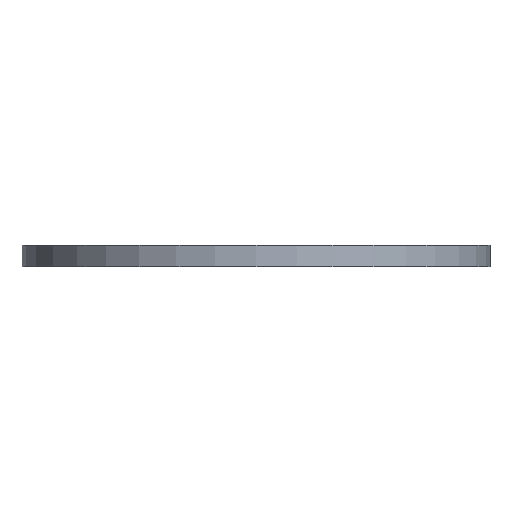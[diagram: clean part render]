
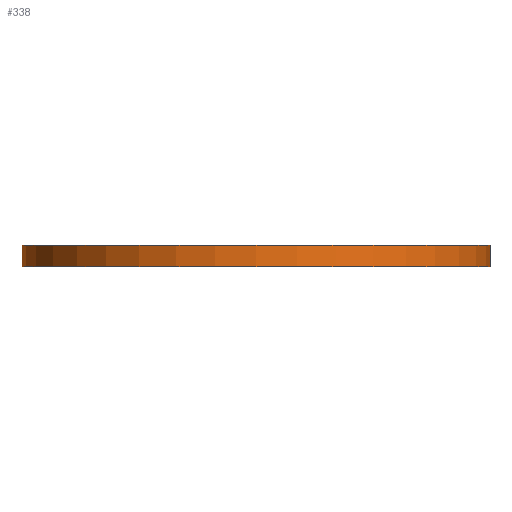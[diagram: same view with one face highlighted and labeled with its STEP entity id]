
A CAD part, front view. The second image highlights one B-rep face of the part: STEP entity #338.
In plain terms, the highlighted cylindrical face has radius 202.5 mm (diameter 405 mm), a partial arc.
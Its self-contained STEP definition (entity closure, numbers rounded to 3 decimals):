
#6 = CYLINDRICAL_SURFACE ( 'NONE', #767, 202.5 ) ;
#24 = LINE ( 'NONE', #643, #287 ) ;
#34 = EDGE_CURVE ( 'NONE', #469, #373, #250, .T. ) ;
#46 = CARTESIAN_POINT ( 'NONE',  ( 0., 0., 0. ) ) ;
#54 = EDGE_CURVE ( 'NONE', #164, #373, #780, .T. ) ;
#68 = CARTESIAN_POINT ( 'NONE',  ( 202.5, 0., 19. ) ) ;
#93 = EDGE_CURVE ( 'NONE', #153, #164, #24, .T. ) ;
#110 = CARTESIAN_POINT ( 'NONE',  ( -202.5, 0., 19. ) ) ;
#116 = DIRECTION ( 'NONE',  ( 0., 0., -1. ) ) ;
#117 = AXIS2_PLACEMENT_3D ( 'NONE', #769, #655, #786 ) ;
#153 = VERTEX_POINT ( 'NONE', #110 ) ;
#164 = VERTEX_POINT ( 'NONE', #582 ) ;
#192 = CARTESIAN_POINT ( 'NONE',  ( 202.5, 0., 0. ) ) ;
#217 = DIRECTION ( 'NONE',  ( 0., 0., -1. ) ) ;
#236 = AXIS2_PLACEMENT_3D ( 'NONE', #46, #586, #380 ) ;
#240 = CIRCLE ( 'NONE', #117, 202.5 ) ;
#243 = VECTOR ( 'NONE', #217, 1000. ) ;
#250 = LINE ( 'NONE', #268, #243 ) ;
#253 = ORIENTED_EDGE ( 'NONE', *, *, #93, .T. ) ;
#268 = CARTESIAN_POINT ( 'NONE',  ( 202.5, 0., 19. ) ) ;
#287 = VECTOR ( 'NONE', #116, 1000. ) ;
#290 = CARTESIAN_POINT ( 'NONE',  ( 0., 0., 19. ) ) ;
#338 = ADVANCED_FACE ( 'NONE', ( #776 ), #6, .T. ) ;
#373 = VERTEX_POINT ( 'NONE', #192 ) ;
#380 = DIRECTION ( 'NONE',  ( 1., 0., 0. ) ) ;
#385 = ORIENTED_EDGE ( 'NONE', *, *, #34, .F. ) ;
#397 = DIRECTION ( 'NONE',  ( -1., 0., 0. ) ) ;
#468 = EDGE_LOOP ( 'NONE', ( #385, #708, #253, #729 ) ) ;
#469 = VERTEX_POINT ( 'NONE', #68 ) ;
#528 = EDGE_CURVE ( 'NONE', #153, #469, #240, .T. ) ;
#531 = DIRECTION ( 'NONE',  ( 0., 0., -1. ) ) ;
#582 = CARTESIAN_POINT ( 'NONE',  ( -202.5, 0., 0. ) ) ;
#586 = DIRECTION ( 'NONE',  ( 0., 0., 1. ) ) ;
#643 = CARTESIAN_POINT ( 'NONE',  ( -202.5, 0., 19. ) ) ;
#655 = DIRECTION ( 'NONE',  ( 0., 0., 1. ) ) ;
#708 = ORIENTED_EDGE ( 'NONE', *, *, #528, .F. ) ;
#729 = ORIENTED_EDGE ( 'NONE', *, *, #54, .T. ) ;
#767 = AXIS2_PLACEMENT_3D ( 'NONE', #290, #531, #397 ) ;
#769 = CARTESIAN_POINT ( 'NONE',  ( 0., 0., 19. ) ) ;
#776 = FACE_OUTER_BOUND ( 'NONE', #468, .T. ) ;
#780 = CIRCLE ( 'NONE', #236, 202.5 ) ;
#786 = DIRECTION ( 'NONE',  ( 1., 0., 0. ) ) ;
